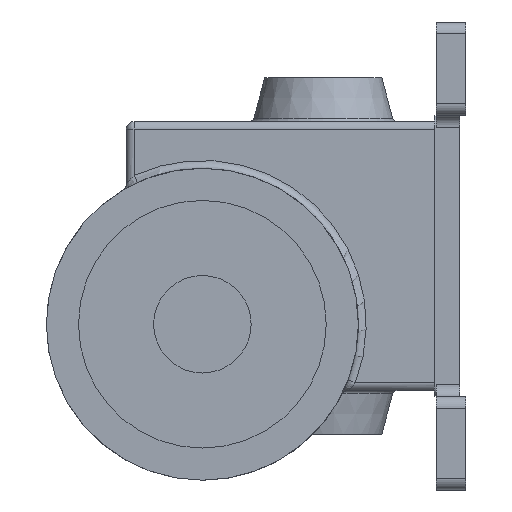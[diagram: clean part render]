
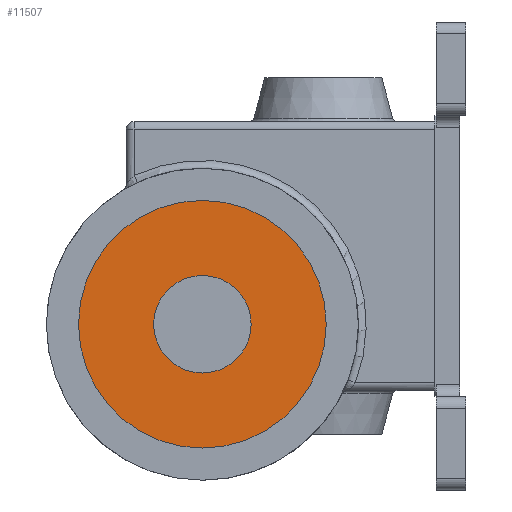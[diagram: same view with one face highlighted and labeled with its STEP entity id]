
A CAD part, left-side view. The second image highlights one B-rep face of the part: STEP entity #11507.
In plain terms, the highlighted planar face has unit normal (-1, 0, 0) as drawn and (1, 0, 0) by its records, which use the part's own axes.
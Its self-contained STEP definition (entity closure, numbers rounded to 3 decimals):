
#200 = AXIS2_PLACEMENT_3D ( 'NONE', #1001, #5603, #1989 ) ;
#267 = CARTESIAN_POINT ( 'NONE',  ( 118., 0., 0. ) ) ;
#1001 = CARTESIAN_POINT ( 'NONE',  ( 118., 0., 0. ) ) ;
#1209 = ORIENTED_EDGE ( 'NONE', *, *, #7303, .F. ) ;
#1408 = CARTESIAN_POINT ( 'NONE',  ( 118., 0., -31.75 ) ) ;
#1628 = DIRECTION ( 'NONE',  ( -1., 0., 0. ) ) ;
#1910 = AXIS2_PLACEMENT_3D ( 'NONE', #267, #11306, #2923 ) ;
#1944 = DIRECTION ( 'NONE',  ( -1., 0., 0. ) ) ;
#1969 = AXIS2_PLACEMENT_3D ( 'NONE', #5356, #8942, #11838 ) ;
#1989 = DIRECTION ( 'NONE',  ( 0., 0., 1. ) ) ;
#2923 = DIRECTION ( 'NONE',  ( 0., 0., 1. ) ) ;
#2932 = DIRECTION ( 'NONE',  ( 0., 0., 1. ) ) ;
#3659 = AXIS2_PLACEMENT_3D ( 'NONE', #3791, #1944, #2932 ) ;
#3791 = CARTESIAN_POINT ( 'NONE',  ( 118., 0., 0. ) ) ;
#3798 = EDGE_CURVE ( 'NONE', #9529, #6315, #11700, .T. ) ;
#3854 = CARTESIAN_POINT ( 'NONE',  ( 118., 0., -12.5 ) ) ;
#4886 = ORIENTED_EDGE ( 'NONE', *, *, #3798, .T. ) ;
#5356 = CARTESIAN_POINT ( 'NONE',  ( 118., 0., 0. ) ) ;
#5603 = DIRECTION ( 'NONE',  ( -1., 0., 0. ) ) ;
#6058 = FACE_OUTER_BOUND ( 'NONE', #9775, .T. ) ;
#6168 = PLANE ( 'NONE',  #8410 ) ;
#6315 = VERTEX_POINT ( 'NONE', #6906 ) ;
#6760 = ORIENTED_EDGE ( 'NONE', *, *, #10604, .F. ) ;
#6906 = CARTESIAN_POINT ( 'NONE',  ( 118., 0., 12.5 ) ) ;
#7245 = EDGE_LOOP ( 'NONE', ( #8425, #4886 ) ) ;
#7303 = EDGE_CURVE ( 'NONE', #9499, #11029, #11284, .T. ) ;
#8410 = AXIS2_PLACEMENT_3D ( 'NONE', #10029, #1628, #10842 ) ;
#8425 = ORIENTED_EDGE ( 'NONE', *, *, #10411, .T. ) ;
#8942 = DIRECTION ( 'NONE',  ( -1., 0., 0. ) ) ;
#9218 = CARTESIAN_POINT ( 'NONE',  ( 118., 0., 31.75 ) ) ;
#9499 = VERTEX_POINT ( 'NONE', #9218 ) ;
#9529 = VERTEX_POINT ( 'NONE', #3854 ) ;
#9775 = EDGE_LOOP ( 'NONE', ( #1209, #6760 ) ) ;
#9977 = CIRCLE ( 'NONE', #1969, 31.75 ) ;
#10029 = CARTESIAN_POINT ( 'NONE',  ( 118., 12.5, 0. ) ) ;
#10411 = EDGE_CURVE ( 'NONE', #6315, #9529, #10566, .T. ) ;
#10566 = CIRCLE ( 'NONE', #200, 12.5 ) ;
#10604 = EDGE_CURVE ( 'NONE', #11029, #9499, #9977, .T. ) ;
#10781 = FACE_BOUND ( 'NONE', #7245, .T. ) ;
#10842 = DIRECTION ( 'NONE',  ( 0., 0., 1. ) ) ;
#11029 = VERTEX_POINT ( 'NONE', #1408 ) ;
#11284 = CIRCLE ( 'NONE', #3659, 31.75 ) ;
#11306 = DIRECTION ( 'NONE',  ( -1., 0., 0. ) ) ;
#11507 = ADVANCED_FACE ( 'NONE', ( #6058, #10781 ), #6168, .F. ) ;
#11700 = CIRCLE ( 'NONE', #1910, 12.5 ) ;
#11838 = DIRECTION ( 'NONE',  ( 0., 0., 1. ) ) ;
